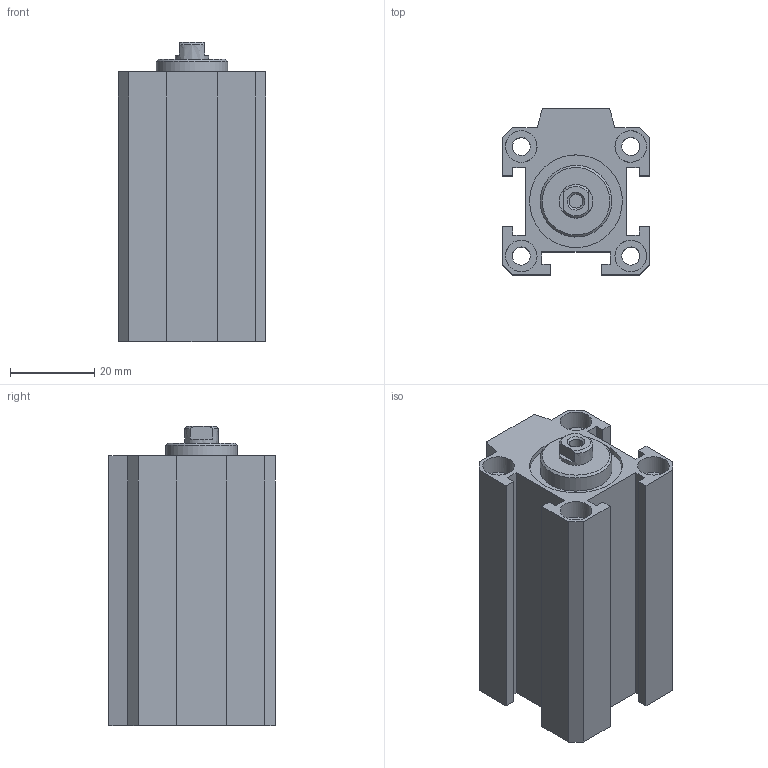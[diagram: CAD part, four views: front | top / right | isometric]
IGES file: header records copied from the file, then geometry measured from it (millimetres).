
Global section: file name: 1511_20_0030; native system: Autodesk Inventor 2014; preprocessor: unknown; author: A. Manieri; date: 20160824.110329; units: millimetre
Bounding box: 35 x 39.5 x 71 mm (x, y, z)
Volume: 53139.6 mm3; surface area: 25903.5 mm2
Topology: 2 solids, 2 shells, 91 faces, 233 edges, 164 vertices
Faces by surface type: bspline 91
